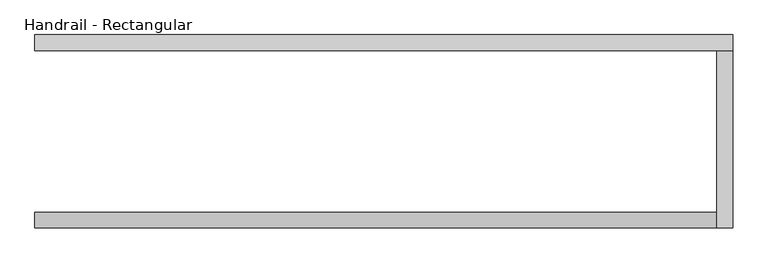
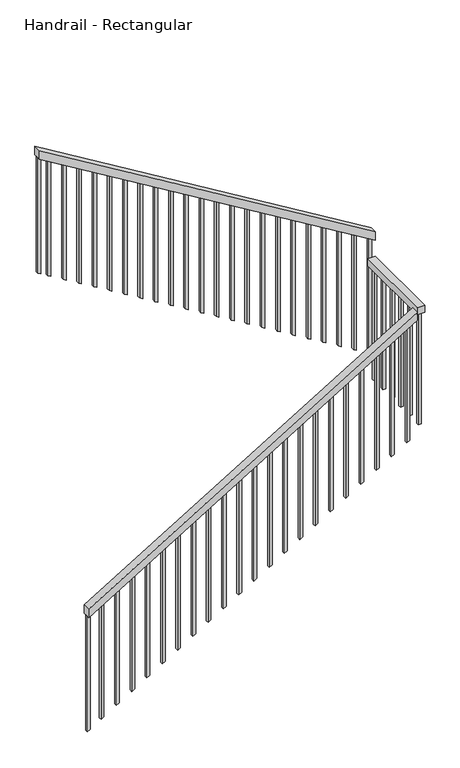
"""IFC4 building model written with IfcOpenShell, lengths in millimetres: railing geometry, Handrail - Rectangular."""

import ifcopenshell
import ifcopenshell.guid

model = None  # the IFC model being written
_history = None  # IfcOwnerHistory: only IFC2X3 demands one
_inside = {}  # id of a spatial element -> (the spatial element, [elements in it])
_under = {}  # id of a project, library or spatial element -> (it, [spatial elements below it])
_declared = {}  # id of a project -> (the project, [libraries it declares])
_typed = {}  # id of a type object -> (the type object, [elements of that type])
_made_of = {}  # id of a material, layer set ... -> (it, [elements and type objects made of it])


def new_model(schema):
    """Start an empty IFC model of exactly this schema.

    Asked for "IFC4X3", IfcOpenShell would pick the latest addendum, in which some entities
    have other attributes; the version numbers below select the first issue.
    IFC2X3 requires an IfcOwnerHistory on every rooted entity: one is made here for all.
    """
    global model, _history
    if schema == "IFC4X3":
        model = ifcopenshell.file(schema_version=(4, 3, 0, 0))
    else:
        model = ifcopenshell.file(schema=schema)
    _inside.clear()
    _under.clear()
    _declared.clear()
    _typed.clear()
    _made_of.clear()
    _history = None
    if model.schema == "IFC2X3":
        org = make("IfcOrganization", Name="unknown")
        user = make(
            "IfcPersonAndOrganization",
            ThePerson=make("IfcPerson", FamilyName="unknown"),
            TheOrganization=org,
        )
        app = make(
            "IfcApplication",
            ApplicationDeveloper=org,
            Version="unknown",
            ApplicationFullName="unknown",
            ApplicationIdentifier="unknown",
        )
        _history = make(
            "IfcOwnerHistory",
            OwningUser=user,
            OwningApplication=app,
            ChangeAction="ADDED",
            CreationDate=0,
        )
    return model


def make(cls, **values):
    """One entity of the class cls with the attributes given. An attribute that is None is left unset."""
    return model.create_entity(
        cls, **{name: value for name, value in values.items() if value is not None}
    )


def rooted(cls, **values):
    """An entity with a GlobalId (a new one), such as an element, a storey or a relation."""
    return make(cls, GlobalId=ifcopenshell.guid.new(), OwnerHistory=_history, **values)


def si_unit(unit_type, name, prefix=None):
    """IfcSIUnit, for example si_unit("LENGTHUNIT", "METRE", prefix="MILLI")."""
    return make("IfcSIUnit", UnitType=unit_type, Prefix=prefix, Name=name)


def assignment(units):
    """IfcUnitAssignment: the units of a project."""
    return None if units is None else make("IfcUnitAssignment", Units=units)


def point(xyz):
    """IfcCartesianPoint."""
    return None if xyz is None else make("IfcCartesianPoint", Coordinates=xyz)


def direction(xyz):
    """IfcDirection."""
    return None if xyz is None else make("IfcDirection", DirectionRatios=xyz)


def frame(location, z_axis=None, x_axis=None):
    """IfcAxis2Placement3D, a coordinate frame: its origin and axes. An axis left out is left unset."""
    return make(
        "IfcAxis2Placement3D",
        Location=point(location),
        Axis=direction(z_axis),
        RefDirection=direction(x_axis),
    )


def origin():
    """The frame at (0, 0, 0) with its axes left unset."""
    return frame((0.0, 0.0, 0.0))


def place(relative_to, where):
    """IfcLocalPlacement: puts the frame where relative to a parent placement (None: the world)."""
    return make(
        "IfcLocalPlacement", PlacementRelTo=relative_to, RelativePlacement=where
    )


def context(
    kind, dimensions, precision=None, world=None, true_north=None, identifier=None
):
    """IfcGeometricRepresentationContext, for example the 3D "Model" context."""
    return make(
        "IfcGeometricRepresentationContext",
        ContextIdentifier=identifier,
        ContextType=kind,
        CoordinateSpaceDimension=dimensions,
        Precision=precision,
        WorldCoordinateSystem=world,
        TrueNorth=true_north,
    )


def project(units=None, contexts=None):
    """IfcProject with its units and contexts."""
    return rooted(
        "IfcProject",
        Name="project",
        RepresentationContexts=contexts,
        UnitsInContext=assignment(units),
    )


def spatial(cls, under=None, at=None, **own):
    """A site, building, storey or space (cls), placed at a placement, below another one or the project."""
    s = rooted(cls, ObjectPlacement=at, **own)
    if under is not None:
        _under.setdefault(under.id(), (under, []))[1].append(s)
    return s


def polyline(points):
    """IfcPolyline through the points."""
    return make("IfcPolyline", Points=[point(p) for p in points])


def outline(outer, holes=None, kind="AREA"):
    """IfcArbitraryClosedProfileDef: a profile drawn as a closed curve; with holes, ...WithVoids."""
    if holes is None:
        return make("IfcArbitraryClosedProfileDef", ProfileType=kind, OuterCurve=outer)
    return make(
        "IfcArbitraryProfileDefWithVoids",
        ProfileType=kind,
        OuterCurve=outer,
        InnerCurves=holes,
    )


def extrude(swept, where, along, depth):
    """IfcExtrudedAreaSolid: the profile swept, set in the frame where, extruded along a direction by depth."""
    return make(
        "IfcExtrudedAreaSolid",
        SweptArea=swept,
        Position=where,
        ExtrudedDirection=direction(along),
        Depth=depth,
    )


def shape(context_of_items, identifier, shape_type, items):
    """IfcShapeRepresentation: the items that make up one representation, for example the "Body"."""
    return make(
        "IfcShapeRepresentation",
        ContextOfItems=context_of_items,
        RepresentationIdentifier=identifier,
        RepresentationType=shape_type,
        Items=items,
    )


def source(mapping_origin, context_of_items, identifier, shape_type, items):
    """IfcRepresentationMap: a shape defined once, which mapped items show again and again."""
    return make(
        "IfcRepresentationMap",
        MappingOrigin=mapping_origin,
        MappedRepresentation=shape(context_of_items, identifier, shape_type, items),
    )


def transform(
    local_origin,
    x_axis=None,
    y_axis=None,
    z_axis=None,
    scale=None,
    scale2=None,
    scale3=None,
    uniform=True,
):
    """IfcCartesianTransformationOperator3D, or its non-uniform kind. x_axis, y_axis, z_axis: its Axis1, 2, 3."""
    if uniform:
        return make(
            "IfcCartesianTransformationOperator3D",
            Axis1=direction(x_axis),
            Axis2=direction(y_axis),
            LocalOrigin=point(local_origin),
            Scale=scale,
            Axis3=direction(z_axis),
        )
    return make(
        "IfcCartesianTransformationOperator3DnonUniform",
        Axis1=direction(x_axis),
        Axis2=direction(y_axis),
        LocalOrigin=point(local_origin),
        Scale=scale,
        Axis3=direction(z_axis),
        Scale2=scale2,
        Scale3=scale3,
    )


def mapped(mapping_source, mapping_target):
    """IfcMappedItem: shows the shape of a source again, moved by a transform."""
    return make(
        "IfcMappedItem", MappingSource=mapping_source, MappingTarget=mapping_target
    )


def made_of(thing, what):
    """Note that an element or type object is made of a material, layer set ...; save() writes the relation."""
    if what is not None:
        _made_of.setdefault(what.id(), (what, []))[1].append(thing)
    return thing


def element(
    cls,
    number,
    at=None,
    inside=None,
    cuts=None,
    type_object=None,
    material=None,
    context=None,
    identifier="Body",
    shape_type=None,
    held_by="IfcProductDefinitionShape",
    body=None,
    shapes=None,
    **own,
):
    """One element of the class cls, such as IfcWall. Its Tag is "e" and its number.

    at: its placement. inside: the storey or other place that contains it. cuts: it is an
    opening in that element (IfcRelVoidsElement). A single representation is given by context,
    identifier, shape_type and body (its items); several are given by shapes. held_by: the class
    of the entity that holds the representations. save() writes the other relations.
    """
    e = rooted(cls, Tag="e%d" % number, ObjectPlacement=at, **own)
    if body is not None:
        shapes = [shape(context, identifier, shape_type, body)]
    if shapes is not None:
        e.Representation = make(held_by, Representations=shapes)
    if inside is not None:
        _inside.setdefault(inside.id(), (inside, []))[1].append(e)
    if cuts is not None:
        rooted(
            "IfcRelVoidsElement", RelatingBuildingElement=cuts, RelatedOpeningElement=e
        )
    if type_object is not None:
        _typed.setdefault(type_object.id(), (type_object, []))[1].append(e)
    return made_of(e, material)


def aggregate(whole, parts):
    """IfcRelAggregates: a whole, such as a stair, and the parts it consists of."""
    return rooted("IfcRelAggregates", RelatingObject=whole, RelatedObjects=parts)


def save(model, path):
    """Write the relations noted so far, then the file.

    IfcRelAggregates (storeys below a building ...), IfcRelContainedInSpatialStructure (elements
    in a storey), IfcRelDefinesByType, IfcRelAssociatesMaterial and IfcRelDeclares: one each for
    every whole, place, type object, material and project.
    """
    for whole, parts in _under.values():
        aggregate(whole, parts)
    for where, things in _inside.values():
        rooted(
            "IfcRelContainedInSpatialStructure",
            RelatedElements=things,
            RelatingStructure=where,
        )
    for kind, things in _typed.values():
        rooted("IfcRelDefinesByType", RelatedObjects=things, RelatingType=kind)
    for what, things in _made_of.values():
        rooted("IfcRelAssociatesMaterial", RelatedObjects=things, RelatingMaterial=what)
    for by, libraries in _declared.values():
        rooted("IfcRelDeclares", RelatingContext=by, RelatedDefinitions=libraries)
    model.write(path)


def handrail_rectangular_d4d9ffba(model_context):
    return source(origin(), model_context, "Body", "SweptSolid", [
        extrude(outline(polyline([(1083.7333333, -3656.5276449), (1024.3318731, -3656.5276449), (2348.210661, -1472.1276449), (2407.6121212, -1472.1276449), (1083.7333333, -3656.5276449)])), frame((0.0, 2378.8164721, 0.0), z_axis=(0.0, 1.0, 0.0), x_axis=(0.0, 0.0, 1.0)), (0.0, 0.0, 1.0), 50.8),
        extrude(outline(polyline([(-1421.3276449, 2378.8164721), (-1472.1276449, 2378.8164721), (-1472.1276449, 2947.0922314), (-1421.3276449, 2947.0922314), (-1421.3276449, 2378.8164721)])), frame((0.0, 0.0, 2387.6), z_axis=(0.0, 0.0, 1.0), x_axis=(1.0, 0.0, 0.0)), (0.0, 0.0, 1.0), 50.8),
        extrude(outline(polyline([(2548.3318731, -1421.3276449), (2607.7333333, -1421.3276449), (3962.4, -3656.5276449), (3902.9985397, -3656.5276449), (2548.3318731, -1421.3276449)])), frame((0.0, 2947.0922314, 0.0), z_axis=(0.0, 1.0, 0.0), x_axis=(0.0, 0.0, 1.0)), (0.0, 0.0, 1.0), 50.8),
        extrude(outline(polyline([(3862.5894488, -3589.8526449), (3050.3720877, -3589.8526449), (3038.8266332, -3570.8026449), (3851.0439943, -3570.8026449), (3862.5894488, -3589.8526449)])), frame((0.0, 2962.9672314, 0.0), z_axis=(0.0, 1.0, 0.0), x_axis=(0.0, 0.0, 1.0)), (0.0, 0.0, 1.0), 19.05),
        extrude(outline(polyline([(3801.0136913, -3488.2526449), (2988.7963301, -3488.2526449), (2977.2508756, -3469.2026449), (3789.4682367, -3469.2026449), (3801.0136913, -3488.2526449)])), frame((0.0, 2962.9672314, 0.0), z_axis=(0.0, 1.0, 0.0), x_axis=(0.0, 0.0, 1.0)), (0.0, 0.0, 1.0), 19.05),
        extrude(outline(polyline([(3739.4379337, -3386.6526449), (2927.2205726, -3386.6526449), (2915.675118, -3367.6026449), (3727.8924791, -3367.6026449), (3739.4379337, -3386.6526449)])), frame((0.0, 2962.9672314, 0.0), z_axis=(0.0, 1.0, 0.0), x_axis=(0.0, 0.0, 1.0)), (0.0, 0.0, 1.0), 19.05),
        extrude(outline(polyline([(3677.8621761, -3285.0526449), (2865.644815, -3285.0526449), (2854.0993604, -3266.0026449), (3666.3167216, -3266.0026449), (3677.8621761, -3285.0526449)])), frame((0.0, 2962.9672314, 0.0), z_axis=(0.0, 1.0, 0.0), x_axis=(0.0, 0.0, 1.0)), (0.0, 0.0, 1.0), 19.05),
        extrude(outline(polyline([(3616.2864185, -3183.4526449), (2804.0690574, -3183.4526449), (2792.5236029, -3164.4026449), (3604.740964, -3164.4026449), (3616.2864185, -3183.4526449)])), frame((0.0, 2962.9672314, 0.0), z_axis=(0.0, 1.0, 0.0), x_axis=(0.0, 0.0, 1.0)), (0.0, 0.0, 1.0), 19.05),
        extrude(outline(polyline([(3554.710661, -3081.8526449), (2742.4932998, -3081.8526449), (2730.9478453, -3062.8026449), (3543.1652064, -3062.8026449), (3554.710661, -3081.8526449)])), frame((0.0, 2962.9672314, 0.0), z_axis=(0.0, 1.0, 0.0), x_axis=(0.0, 0.0, 1.0)), (0.0, 0.0, 1.0), 19.05),
        extrude(outline(polyline([(3493.1349034, -2980.2526449), (2680.9175423, -2980.2526449), (2669.3720877, -2961.2026449), (3481.5894488, -2961.2026449), (3493.1349034, -2980.2526449)])), frame((0.0, 2962.9672314, 0.0), z_axis=(0.0, 1.0, 0.0), x_axis=(0.0, 0.0, 1.0)), (0.0, 0.0, 1.0), 19.05),
        extrude(outline(polyline([(3431.5591458, -2878.6526449), (2619.3417847, -2878.6526449), (2607.7963301, -2859.6026449), (3420.0136913, -2859.6026449), (3431.5591458, -2878.6526449)])), frame((0.0, 2962.9672314, 0.0), z_axis=(0.0, 1.0, 0.0), x_axis=(0.0, 0.0, 1.0)), (0.0, 0.0, 1.0), 19.05),
        extrude(outline(polyline([(3369.9833882, -2777.0526449), (2557.7660271, -2777.0526449), (2546.2205726, -2758.0026449), (3358.4379337, -2758.0026449), (3369.9833882, -2777.0526449)])), frame((0.0, 2962.9672314, 0.0), z_axis=(0.0, 1.0, 0.0), x_axis=(0.0, 0.0, 1.0)), (0.0, 0.0, 1.0), 19.05),
        extrude(outline(polyline([(3308.4076307, -2675.4526449), (2496.1902695, -2675.4526449), (2484.644815, -2656.4026449), (3296.8621761, -2656.4026449), (3308.4076307, -2675.4526449)])), frame((0.0, 2962.9672314, 0.0), z_axis=(0.0, 1.0, 0.0), x_axis=(0.0, 0.0, 1.0)), (0.0, 0.0, 1.0), 19.05),
        extrude(outline(polyline([(3246.8318731, -2573.8526449), (2434.614512, -2573.8526449), (2423.0690574, -2554.8026449), (3235.2864185, -2554.8026449), (3246.8318731, -2573.8526449)])), frame((0.0, 2962.9672314, 0.0), z_axis=(0.0, 1.0, 0.0), x_axis=(0.0, 0.0, 1.0)), (0.0, 0.0, 1.0), 19.05),
        extrude(outline(polyline([(3185.2561155, -2472.2526449), (2373.0387544, -2472.2526449), (2361.4932998, -2453.2026449), (3173.710661, -2453.2026449), (3185.2561155, -2472.2526449)])), frame((0.0, 2962.9672314, 0.0), z_axis=(0.0, 1.0, 0.0), x_axis=(0.0, 0.0, 1.0)), (0.0, 0.0, 1.0), 19.05),
        extrude(outline(polyline([(3123.6803579, -2370.6526449), (2311.4629968, -2370.6526449), (2299.9175423, -2351.6026449), (3112.1349034, -2351.6026449), (3123.6803579, -2370.6526449)])), frame((0.0, 2962.9672314, 0.0), z_axis=(0.0, 1.0, 0.0), x_axis=(0.0, 0.0, 1.0)), (0.0, 0.0, 1.0), 19.05),
        extrude(outline(polyline([(3062.1046004, -2269.0526449), (2249.8872392, -2269.0526449), (2238.3417847, -2250.0026449), (3050.5591458, -2250.0026449), (3062.1046004, -2269.0526449)])), frame((0.0, 2962.9672314, 0.0), z_axis=(0.0, 1.0, 0.0), x_axis=(0.0, 0.0, 1.0)), (0.0, 0.0, 1.0), 19.05),
        extrude(outline(polyline([(3000.5288428, -2167.4526449), (2188.3114817, -2167.4526449), (2176.7660271, -2148.4026449), (2988.9833882, -2148.4026449), (3000.5288428, -2167.4526449)])), frame((0.0, 2962.9672314, 0.0), z_axis=(0.0, 1.0, 0.0), x_axis=(0.0, 0.0, 1.0)), (0.0, 0.0, 1.0), 19.05),
        extrude(outline(polyline([(2938.9530852, -2065.8526449), (2126.7357241, -2065.8526449), (2115.1902695, -2046.8026449), (2927.4076307, -2046.8026449), (2938.9530852, -2065.8526449)])), frame((0.0, 2962.9672314, 0.0), z_axis=(0.0, 1.0, 0.0), x_axis=(0.0, 0.0, 1.0)), (0.0, 0.0, 1.0), 19.05),
        extrude(outline(polyline([(2877.3773276, -1964.2526449), (2065.1599665, -1964.2526449), (2053.614512, -1945.2026449), (2865.8318731, -1945.2026449), (2877.3773276, -1964.2526449)])), frame((0.0, 2962.9672314, 0.0), z_axis=(0.0, 1.0, 0.0), x_axis=(0.0, 0.0, 1.0)), (0.0, 0.0, 1.0), 19.05),
        extrude(outline(polyline([(2815.80157, -1862.6526449), (2003.5842089, -1862.6526449), (1992.0387544, -1843.6026449), (2804.2561155, -1843.6026449), (2815.80157, -1862.6526449)])), frame((0.0, 2962.9672314, 0.0), z_axis=(0.0, 1.0, 0.0), x_axis=(0.0, 0.0, 1.0)), (0.0, 0.0, 1.0), 19.05),
        extrude(outline(polyline([(2754.2258125, -1761.0526449), (1942.0084514, -1761.0526449), (1930.4629968, -1742.0026449), (2742.6803579, -1742.0026449), (2754.2258125, -1761.0526449)])), frame((0.0, 2962.9672314, 0.0), z_axis=(0.0, 1.0, 0.0), x_axis=(0.0, 0.0, 1.0)), (0.0, 0.0, 1.0), 19.05),
        extrude(outline(polyline([(2692.6500549, -1659.4526449), (1880.4326938, -1659.4526449), (1868.8872392, -1640.4026449), (2681.1046004, -1640.4026449), (2692.6500549, -1659.4526449)])), frame((0.0, 2962.9672314, 0.0), z_axis=(0.0, 1.0, 0.0), x_axis=(0.0, 0.0, 1.0)), (0.0, 0.0, 1.0), 19.05),
        extrude(outline(polyline([(2631.0742973, -1557.8526449), (1818.8569362, -1557.8526449), (1807.3114817, -1538.8026449), (2619.5288428, -1538.8026449), (2631.0742973, -1557.8526449)])), frame((0.0, 2962.9672314, 0.0), z_axis=(0.0, 1.0, 0.0), x_axis=(0.0, 0.0, 1.0)), (0.0, 0.0, 1.0), 19.05),
        extrude(outline(polyline([(-1456.2526449, 2902.6914721), (-1456.2526449, 2921.7414721), (-1437.2026449, 2921.7414721), (-1437.2026449, 2902.6914721), (-1456.2526449, 2902.6914721)])), frame((0.0, 0.0, 1600.2), z_axis=(0.0, 0.0, 1.0), x_axis=(1.0, 0.0, 0.0)), (0.0, 0.0, 1.0), 787.4),
        extrude(outline(polyline([(-1456.2526449, 2801.0914721), (-1456.2526449, 2820.1414721), (-1437.2026449, 2820.1414721), (-1437.2026449, 2801.0914721), (-1456.2526449, 2801.0914721)])), frame((0.0, 0.0, 1600.2), z_axis=(0.0, 0.0, 1.0), x_axis=(1.0, 0.0, 0.0)), (0.0, 0.0, 1.0), 787.4),
        extrude(outline(polyline([(-1456.2526449, 2699.4914721), (-1456.2526449, 2718.5414721), (-1437.2026449, 2718.5414721), (-1437.2026449, 2699.4914721), (-1456.2526449, 2699.4914721)])), frame((0.0, 0.0, 1600.2), z_axis=(0.0, 0.0, 1.0), x_axis=(1.0, 0.0, 0.0)), (0.0, 0.0, 1.0), 787.4),
        extrude(outline(polyline([(-1456.2526449, 2597.8914721), (-1456.2526449, 2616.9414721), (-1437.2026449, 2616.9414721), (-1437.2026449, 2597.8914721), (-1456.2526449, 2597.8914721)])), frame((0.0, 0.0, 1600.2), z_axis=(0.0, 0.0, 1.0), x_axis=(1.0, 0.0, 0.0)), (0.0, 0.0, 1.0), 787.4),
        extrude(outline(polyline([(-1456.2526449, 2496.2914721), (-1456.2526449, 2515.3414721), (-1437.2026449, 2515.3414721), (-1437.2026449, 2496.2914721), (-1456.2526449, 2496.2914721)])), frame((0.0, 0.0, 1600.2), z_axis=(0.0, 0.0, 1.0), x_axis=(1.0, 0.0, 0.0)), (0.0, 0.0, 1.0), 787.4),
        extrude(outline(polyline([(2311.6500549, -1532.4526449), (1499.4326938, -1532.4526449), (1510.9781483, -1513.4026449), (2323.1955094, -1513.4026449), (2311.6500549, -1532.4526449)])), frame((0.0, 2394.6914721, 0.0), z_axis=(0.0, 1.0, 0.0), x_axis=(0.0, 0.0, 1.0)), (0.0, 0.0, 1.0), 19.05),
        extrude(outline(polyline([(2250.0742973, -1634.0526449), (1437.8569362, -1634.0526449), (1449.4023907, -1615.0026449), (2261.6197519, -1615.0026449), (2250.0742973, -1634.0526449)])), frame((0.0, 2394.6914721, 0.0), z_axis=(0.0, 1.0, 0.0), x_axis=(0.0, 0.0, 1.0)), (0.0, 0.0, 1.0), 19.05),
        extrude(outline(polyline([(2188.4985397, -1735.6526449), (1376.2811786, -1735.6526449), (1387.8266332, -1716.6026449), (2200.0439943, -1716.6026449), (2188.4985397, -1735.6526449)])), frame((0.0, 2394.6914721, 0.0), z_axis=(0.0, 1.0, 0.0), x_axis=(0.0, 0.0, 1.0)), (0.0, 0.0, 1.0), 19.05),
        extrude(outline(polyline([(2126.9227822, -1837.2526449), (1314.7054211, -1837.2526449), (1326.2508756, -1818.2026449), (2138.4682367, -1818.2026449), (2126.9227822, -1837.2526449)])), frame((0.0, 2394.6914721, 0.0), z_axis=(0.0, 1.0, 0.0), x_axis=(0.0, 0.0, 1.0)), (0.0, 0.0, 1.0), 19.05),
        extrude(outline(polyline([(2065.3470246, -1938.8526449), (1253.1296635, -1938.8526449), (1264.675118, -1919.8026449), (2076.8924791, -1919.8026449), (2065.3470246, -1938.8526449)])), frame((0.0, 2394.6914721, 0.0), z_axis=(0.0, 1.0, 0.0), x_axis=(0.0, 0.0, 1.0)), (0.0, 0.0, 1.0), 19.05),
        extrude(outline(polyline([(2003.771267, -2040.4526449), (1191.5539059, -2040.4526449), (1203.0993604, -2021.4026449), (2015.3167216, -2021.4026449), (2003.771267, -2040.4526449)])), frame((0.0, 2394.6914721, 0.0), z_axis=(0.0, 1.0, 0.0), x_axis=(0.0, 0.0, 1.0)), (0.0, 0.0, 1.0), 19.05),
        extrude(outline(polyline([(1942.1955094, -2142.0526449), (1129.9781483, -2142.0526449), (1141.5236029, -2123.0026449), (1953.740964, -2123.0026449), (1942.1955094, -2142.0526449)])), frame((0.0, 2394.6914721, 0.0), z_axis=(0.0, 1.0, 0.0), x_axis=(0.0, 0.0, 1.0)), (0.0, 0.0, 1.0), 19.05),
        extrude(outline(polyline([(1880.6197519, -2243.6526449), (1068.4023907, -2243.6526449), (1079.9478453, -2224.6026449), (1892.1652064, -2224.6026449), (1880.6197519, -2243.6526449)])), frame((0.0, 2394.6914721, 0.0), z_axis=(0.0, 1.0, 0.0), x_axis=(0.0, 0.0, 1.0)), (0.0, 0.0, 1.0), 19.05),
        extrude(outline(polyline([(1819.0439943, -2345.2526449), (1006.8266332, -2345.2526449), (1018.3720877, -2326.2026449), (1830.5894488, -2326.2026449), (1819.0439943, -2345.2526449)])), frame((0.0, 2394.6914721, 0.0), z_axis=(0.0, 1.0, 0.0), x_axis=(0.0, 0.0, 1.0)), (0.0, 0.0, 1.0), 19.05),
        extrude(outline(polyline([(1757.4682367, -2446.8526449), (945.2508756, -2446.8526449), (956.7963301, -2427.8026449), (1769.0136913, -2427.8026449), (1757.4682367, -2446.8526449)])), frame((0.0, 2394.6914721, 0.0), z_axis=(0.0, 1.0, 0.0), x_axis=(0.0, 0.0, 1.0)), (0.0, 0.0, 1.0), 19.05),
        extrude(outline(polyline([(1695.8924791, -2548.4526449), (883.675118, -2548.4526449), (895.2205726, -2529.4026449), (1707.4379337, -2529.4026449), (1695.8924791, -2548.4526449)])), frame((0.0, 2394.6914721, 0.0), z_axis=(0.0, 1.0, 0.0), x_axis=(0.0, 0.0, 1.0)), (0.0, 0.0, 1.0), 19.05),
        extrude(outline(polyline([(1634.3167216, -2650.0526449), (822.0993604, -2650.0526449), (833.644815, -2631.0026449), (1645.8621761, -2631.0026449), (1634.3167216, -2650.0526449)])), frame((0.0, 2394.6914721, 0.0), z_axis=(0.0, 1.0, 0.0), x_axis=(0.0, 0.0, 1.0)), (0.0, 0.0, 1.0), 19.05),
        extrude(outline(polyline([(1572.740964, -2751.6526449), (760.5236029, -2751.6526449), (772.0690574, -2732.6026449), (1584.2864185, -2732.6026449), (1572.740964, -2751.6526449)])), frame((0.0, 2394.6914721, 0.0), z_axis=(0.0, 1.0, 0.0), x_axis=(0.0, 0.0, 1.0)), (0.0, 0.0, 1.0), 19.05),
        extrude(outline(polyline([(1511.1652064, -2853.2526449), (698.9478453, -2853.2526449), (710.4932998, -2834.2026449), (1522.710661, -2834.2026449), (1511.1652064, -2853.2526449)])), frame((0.0, 2394.6914721, 0.0), z_axis=(0.0, 1.0, 0.0), x_axis=(0.0, 0.0, 1.0)), (0.0, 0.0, 1.0), 19.05),
        extrude(outline(polyline([(1449.5894488, -2954.8526449), (637.3720877, -2954.8526449), (648.9175423, -2935.8026449), (1461.1349034, -2935.8026449), (1449.5894488, -2954.8526449)])), frame((0.0, 2394.6914721, 0.0), z_axis=(0.0, 1.0, 0.0), x_axis=(0.0, 0.0, 1.0)), (0.0, 0.0, 1.0), 19.05),
        extrude(outline(polyline([(1388.0136913, -3056.4526449), (575.7963301, -3056.4526449), (587.3417847, -3037.4026449), (1399.5591458, -3037.4026449), (1388.0136913, -3056.4526449)])), frame((0.0, 2394.6914721, 0.0), z_axis=(0.0, 1.0, 0.0), x_axis=(0.0, 0.0, 1.0)), (0.0, 0.0, 1.0), 19.05),
        extrude(outline(polyline([(1326.4379337, -3158.0526449), (514.2205726, -3158.0526449), (525.7660271, -3139.0026449), (1337.9833882, -3139.0026449), (1326.4379337, -3158.0526449)])), frame((0.0, 2394.6914721, 0.0), z_axis=(0.0, 1.0, 0.0), x_axis=(0.0, 0.0, 1.0)), (0.0, 0.0, 1.0), 19.05),
        extrude(outline(polyline([(1264.8621761, -3259.6526449), (452.644815, -3259.6526449), (464.1902695, -3240.6026449), (1276.4076307, -3240.6026449), (1264.8621761, -3259.6526449)])), frame((0.0, 2394.6914721, 0.0), z_axis=(0.0, 1.0, 0.0), x_axis=(0.0, 0.0, 1.0)), (0.0, 0.0, 1.0), 19.05),
        extrude(outline(polyline([(1203.2864185, -3361.2526449), (391.0690574, -3361.2526449), (402.614512, -3342.2026449), (1214.8318731, -3342.2026449), (1203.2864185, -3361.2526449)])), frame((0.0, 2394.6914721, 0.0), z_axis=(0.0, 1.0, 0.0), x_axis=(0.0, 0.0, 1.0)), (0.0, 0.0, 1.0), 19.05),
        extrude(outline(polyline([(1141.710661, -3462.8526449), (329.4932998, -3462.8526449), (341.0387544, -3443.8026449), (1153.2561155, -3443.8026449), (1141.710661, -3462.8526449)])), frame((0.0, 2394.6914721, 0.0), z_axis=(0.0, 1.0, 0.0), x_axis=(0.0, 0.0, 1.0)), (0.0, 0.0, 1.0), 19.05),
        extrude(outline(polyline([(1080.1349034, -3564.4526449), (267.9175423, -3564.4526449), (279.4629968, -3545.4026449), (1091.6803579, -3545.4026449), (1080.1349034, -3564.4526449)])), frame((0.0, 2394.6914721, 0.0), z_axis=(0.0, 1.0, 0.0), x_axis=(0.0, 0.0, 1.0)), (0.0, 0.0, 1.0), 19.05),
        extrude(outline(polyline([(2569.4985397, -1456.2526449), (1757.2811786, -1456.2526449), (1745.7357241, -1437.2026449), (2557.9530852, -1437.2026449), (2569.4985397, -1456.2526449)])), frame((0.0, 2962.9672314, 0.0), z_axis=(0.0, 1.0, 0.0), x_axis=(0.0, 0.0, 1.0)), (0.0, 0.0, 1.0), 19.05),
        extrude(outline(polyline([(-1456.2526449, 2394.6914721), (-1456.2526449, 2413.7414721), (-1437.2026449, 2413.7414721), (-1437.2026449, 2394.6914721), (-1456.2526449, 2394.6914721)])), frame((0.0, 0.0, 1600.2), z_axis=(0.0, 0.0, 1.0), x_axis=(1.0, 0.0, 0.0)), (0.0, 0.0, 1.0), 787.4),
        extrude(outline(polyline([(3902.9985397, -3656.5276449), (3090.7811786, -3656.5276449), (3079.2357241, -3637.4776449), (3891.4530852, -3637.4776449), (3902.9985397, -3656.5276449)])), frame((0.0, 2962.9672314, 0.0), z_axis=(0.0, 1.0, 0.0), x_axis=(0.0, 0.0, 1.0)), (0.0, 0.0, 1.0), 19.05),
        extrude(outline(polyline([(1024.3318731, -3656.5276449), (212.114512, -3656.5276449), (223.6599665, -3637.4776449), (1035.8773276, -3637.4776449), (1024.3318731, -3656.5276449)])), frame((0.0, 2394.6914721, 0.0), z_axis=(0.0, 1.0, 0.0), x_axis=(0.0, 0.0, 1.0)), (0.0, 0.0, 1.0), 19.05),
    ])


if __name__ == "__main__":
    model = new_model("IFC4")
    model_context = context("Model", 3, world=origin())
    ifc_project = project(units=[si_unit("LENGTHUNIT", "METRE", prefix="MILLI")], contexts=[model_context])
    site = spatial("IfcSite", under=ifc_project)
    building = spatial("IfcBuilding", under=site)
    placement = place(None, origin())
    handrail_rectangular_shape = handrail_rectangular_d4d9ffba(model_context)
    element("IfcRailing", 1, ObjectType="Handrail - Rectangular", at=placement, inside=building, context=model_context, shape_type="MappedRepresentation", body=[
        mapped(handrail_rectangular_shape, transform((0.0, 0.0, 0.0), x_axis=(1.0, 0.0, 0.0), y_axis=(0.0, 1.0, 0.0), z_axis=(0.0, 0.0, 1.0))),
    ])
    save(model, "model.ifc")
